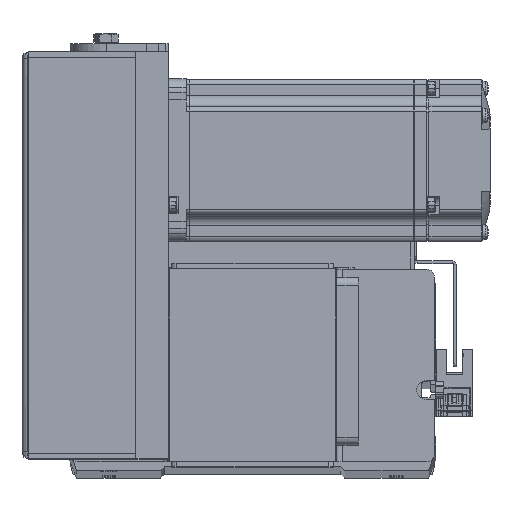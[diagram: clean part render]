
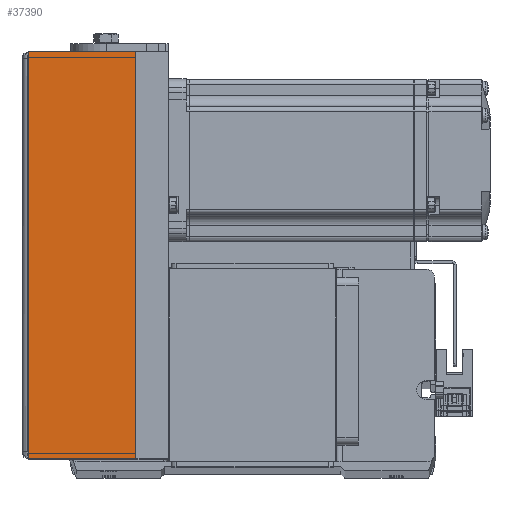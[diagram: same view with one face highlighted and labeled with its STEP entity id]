
A CAD part, top view. The second image highlights one B-rep face of the part: STEP entity #37390.
In plain terms, the highlighted planar face has unit normal (0, 0, 1) as drawn and (0, 1, 0) by its records, which use the part's own axes.
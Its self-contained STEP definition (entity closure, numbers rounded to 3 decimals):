
#180 = EDGE_CURVE ( 'NONE', #16424, #23479, #905, .T. ) ;
#442 = CARTESIAN_POINT ( 'NONE',  ( -75., 36., 51.5 ) ) ;
#905 = LINE ( 'NONE', #3852, #16006 ) ;
#1614 = EDGE_CURVE ( 'NONE', #29350, #16424, #18319, .T. ) ;
#2464 = DIRECTION ( 'NONE',  ( 0., -1., 0. ) ) ;
#3034 = DIRECTION ( 'NONE',  ( 0., 0., -1. ) ) ;
#3211 = DIRECTION ( 'NONE',  ( -1., 0., 0. ) ) ;
#3852 = CARTESIAN_POINT ( 'NONE',  ( 0., 36., 12. ) ) ;
#4627 = CARTESIAN_POINT ( 'NONE',  ( 75., 36., 51.5 ) ) ;
#5507 = CARTESIAN_POINT ( 'NONE',  ( -75., 36., 12. ) ) ;
#8332 = PLANE ( 'NONE',  #36939 ) ;
#8729 = CARTESIAN_POINT ( 'NONE',  ( 0., 36., 52. ) ) ;
#11415 = LINE ( 'NONE', #26294, #27939 ) ;
#11697 = CARTESIAN_POINT ( 'NONE',  ( 75., 36., 12. ) ) ;
#13607 = DIRECTION ( 'NONE',  ( 0., 0., -1. ) ) ;
#14431 = DIRECTION ( 'NONE',  ( 0., 0., 1. ) ) ;
#14814 = FACE_OUTER_BOUND ( 'NONE', #20144, .T. ) ;
#15169 = LINE ( 'NONE', #30635, #15216 ) ;
#15216 = VECTOR ( 'NONE', #3211, 1000. ) ;
#16006 = VECTOR ( 'NONE', #25579, 1000. ) ;
#16424 = VERTEX_POINT ( 'NONE', #11697 ) ;
#18319 = LINE ( 'NONE', #30652, #19564 ) ;
#19564 = VECTOR ( 'NONE', #3034, 1000. ) ;
#20144 = EDGE_LOOP ( 'NONE', ( #33935, #28438, #35425, #28377 ) ) ;
#20163 = EDGE_CURVE ( 'NONE', #29350, #30024, #15169, .T. ) ;
#23479 = VERTEX_POINT ( 'NONE', #5507 ) ;
#25579 = DIRECTION ( 'NONE',  ( -1., 0., 0. ) ) ;
#26294 = CARTESIAN_POINT ( 'NONE',  ( -75., 36., 51.5 ) ) ;
#26725 = EDGE_CURVE ( 'NONE', #30024, #23479, #11415, .T. ) ;
#27939 = VECTOR ( 'NONE', #13607, 1000. ) ;
#28377 = ORIENTED_EDGE ( 'NONE', *, *, #26725, .F. ) ;
#28438 = ORIENTED_EDGE ( 'NONE', *, *, #1614, .T. ) ;
#29350 = VERTEX_POINT ( 'NONE', #4627 ) ;
#30024 = VERTEX_POINT ( 'NONE', #442 ) ;
#30635 = CARTESIAN_POINT ( 'NONE',  ( -75., 36., 51.5 ) ) ;
#30652 = CARTESIAN_POINT ( 'NONE',  ( 75., 36., 51.5 ) ) ;
#33935 = ORIENTED_EDGE ( 'NONE', *, *, #20163, .F. ) ;
#35425 = ORIENTED_EDGE ( 'NONE', *, *, #180, .T. ) ;
#36939 = AXIS2_PLACEMENT_3D ( 'NONE', #8729, #2464, #14431 ) ;
#37390 = ADVANCED_FACE ( 'NONE', ( #14814 ), #8332, .F. ) ;
